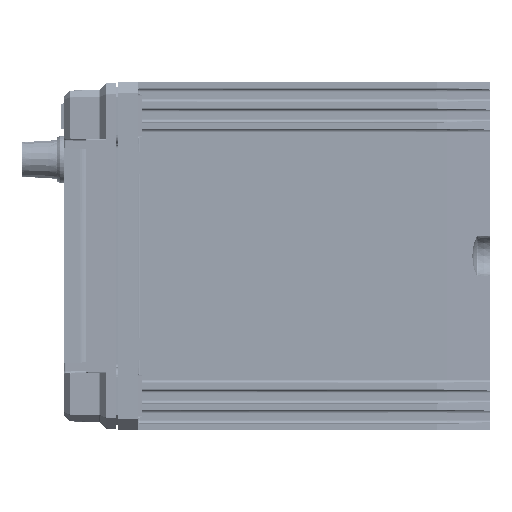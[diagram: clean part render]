
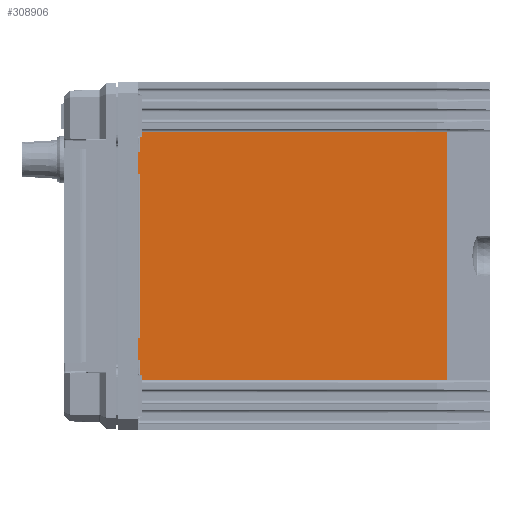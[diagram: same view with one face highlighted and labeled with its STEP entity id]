
A CAD part, left-side view. The second image highlights one B-rep face of the part: STEP entity #308906.
In plain terms, the highlighted planar face has unit normal (-1, 0, 0).
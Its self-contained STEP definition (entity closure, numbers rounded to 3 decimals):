
#51930 = CARTESIAN_POINT ( 'NONE',  ( -190.25, -18.37, 61.275 ) ) ;
#51933 = CARTESIAN_POINT ( 'NONE',  ( -190.25, -169.087, 61.275 ) ) ;
#51936 = CARTESIAN_POINT ( 'NONE',  ( -190.25, -18.37, 58.761 ) ) ;
#51939 = CARTESIAN_POINT ( 'NONE',  ( -190.25, -17.05, 58.689 ) ) ;
#51942 = CARTESIAN_POINT ( 'NONE',  ( -190.25, -17.05, 51.7 ) ) ;
#51945 = CARTESIAN_POINT ( 'NONE',  ( -190.25, -16.4, 51.7 ) ) ;
#51948 = CARTESIAN_POINT ( 'NONE',  ( -190.25, -16.4, 40.7 ) ) ;
#51950 = CARTESIAN_POINT ( 'NONE',  ( -190.25, -17.05, 40.7 ) ) ;
#51953 = CARTESIAN_POINT ( 'NONE',  ( -190.25, -17.05, -40.7 ) ) ;
#51956 = CARTESIAN_POINT ( 'NONE',  ( -190.25, -16.4, -40.7 ) ) ;
#51959 = CARTESIAN_POINT ( 'NONE',  ( -190.25, -16.4, -51.7 ) ) ;
#51962 = CARTESIAN_POINT ( 'NONE',  ( -190.25, -17.05, -51.7 ) ) ;
#51965 = CARTESIAN_POINT ( 'NONE',  ( -190.25, -17.05, -58.689 ) ) ;
#51968 = CARTESIAN_POINT ( 'NONE',  ( -190.25, -18.37, -58.761 ) ) ;
#51971 = CARTESIAN_POINT ( 'NONE',  ( -190.25, -18.37, -61.275 ) ) ;
#51974 = CARTESIAN_POINT ( 'NONE',  ( -190.25, -169.087, -61.275 ) ) ;
#62734 = FACE_OUTER_BOUND ( 'NONE', #70448, .T. ) ;
#62784 = AXIS2_PLACEMENT_3D ( 'NONE', #107910, #107913, #107916 ) ;
#66114 = VECTOR ( 'NONE', #131334, 1000. ) ;
#66119 = VECTOR ( 'NONE', #131344, 1000. ) ;
#66127 = VECTOR ( 'NONE', #131371, 1000. ) ;
#66132 = VECTOR ( 'NONE', #131382, 1000. ) ;
#66137 = VECTOR ( 'NONE', #131393, 1000. ) ;
#66143 = VECTOR ( 'NONE', #131403, 1000. ) ;
#66148 = VECTOR ( 'NONE', #131414, 1000. ) ;
#66153 = VECTOR ( 'NONE', #131425, 1000. ) ;
#66159 = VECTOR ( 'NONE', #131436, 1000. ) ;
#66164 = VECTOR ( 'NONE', #131446, 1000. ) ;
#66169 = VECTOR ( 'NONE', #131457, 1000. ) ;
#66177 = VECTOR ( 'NONE', #131485, 1000. ) ;
#66182 = VECTOR ( 'NONE', #131495, 1000. ) ;
#66187 = VECTOR ( 'NONE', #131506, 1000. ) ;
#70448 = EDGE_LOOP ( 'NONE', ( #322698, #322702, #322700, #322704, #322706, #322708, #322710, #322712, #322714, #322716, #322718, #322720, #322722, #322724, #322726, #322728 ) ) ;
#107908 = PLANE ( 'NONE',  #62784 ) ;
#107910 = CARTESIAN_POINT ( 'NONE',  ( -190.25, -9.2, 86. ) ) ;
#107913 = DIRECTION ( 'NONE',  ( 1., 0., 0. ) ) ;
#107916 = DIRECTION ( 'NONE',  ( 0., -1., 0. ) ) ;
#118816 =( BOUNDED_CURVE ( )  B_SPLINE_CURVE ( 3, ( #131461, #131464, #131468, #131471 ),
 .UNSPECIFIED., .F., .F. ) 
 B_SPLINE_CURVE_WITH_KNOTS ( ( 4, 4 ),
 ( 3.56, 3.597 ),
 .UNSPECIFIED. ) 
 CURVE ( )  GEOMETRIC_REPRESENTATION_ITEM ( )  RATIONAL_B_SPLINE_CURVE ( ( 1., 1., 1., 1. ) ) 
 REPRESENTATION_ITEM ( '' )  );
#118818 =( BOUNDED_CURVE ( )  B_SPLINE_CURVE ( 3, ( #131348, #131352, #131355, #131359 ),
 .UNSPECIFIED., .F., .F. ) 
 B_SPLINE_CURVE_WITH_KNOTS ( ( 4, 4 ),
 ( 5.828, 5.865 ),
 .UNSPECIFIED. ) 
 CURVE ( )  GEOMETRIC_REPRESENTATION_ITEM ( )  RATIONAL_B_SPLINE_CURVE ( ( 1., 1., 1., 1. ) ) 
 REPRESENTATION_ITEM ( '' )  );
#131326 = LINE ( 'NONE', #131330, #66114 ) ;
#131330 = CARTESIAN_POINT ( 'NONE',  ( -190.25, -18.37, 86. ) ) ;
#131334 = DIRECTION ( 'NONE',  ( 0., 0., -1. ) ) ;
#131337 = LINE ( 'NONE', #131341, #66119 ) ;
#131341 = CARTESIAN_POINT ( 'NONE',  ( -190.25, -9.2, 61.275 ) ) ;
#131344 = DIRECTION ( 'NONE',  ( 0., -1., 0. ) ) ;
#131348 = CARTESIAN_POINT ( 'NONE',  ( -190.25, -17.05, 58.689 ) ) ;
#131352 = CARTESIAN_POINT ( 'NONE',  ( -190.25, -17.507, 58.713 ) ) ;
#131355 = CARTESIAN_POINT ( 'NONE',  ( -190.25, -17.947, 58.737 ) ) ;
#131359 = CARTESIAN_POINT ( 'NONE',  ( -190.25, -18.37, 58.761 ) ) ;
#131364 = LINE ( 'NONE', #131367, #66127 ) ;
#131367 = CARTESIAN_POINT ( 'NONE',  ( -190.25, -17.05, 58.655 ) ) ;
#131371 = DIRECTION ( 'NONE',  ( 0., 0., 1. ) ) ;
#131375 = LINE ( 'NONE', #131378, #66132 ) ;
#131378 = CARTESIAN_POINT ( 'NONE',  ( -190.25, -16.4, 51.7 ) ) ;
#131382 = DIRECTION ( 'NONE',  ( 0., -1., 0. ) ) ;
#131385 = LINE ( 'NONE', #131389, #66137 ) ;
#131389 = CARTESIAN_POINT ( 'NONE',  ( -190.25, -16.4, 86. ) ) ;
#131393 = DIRECTION ( 'NONE',  ( 0., 0., -1. ) ) ;
#131396 = LINE ( 'NONE', #131400, #66143 ) ;
#131400 = CARTESIAN_POINT ( 'NONE',  ( -190.25, -16.4, 40.7 ) ) ;
#131403 = DIRECTION ( 'NONE',  ( 0., 1., 0. ) ) ;
#131407 = LINE ( 'NONE', #131410, #66148 ) ;
#131410 = CARTESIAN_POINT ( 'NONE',  ( -190.25, -17.05, 40.7 ) ) ;
#131414 = DIRECTION ( 'NONE',  ( 0., 0., 1. ) ) ;
#131418 = LINE ( 'NONE', #131421, #66153 ) ;
#131421 = CARTESIAN_POINT ( 'NONE',  ( -190.25, -16.4, -40.7 ) ) ;
#131425 = DIRECTION ( 'NONE',  ( 0., -1., 0. ) ) ;
#131428 = LINE ( 'NONE', #131432, #66159 ) ;
#131432 = CARTESIAN_POINT ( 'NONE',  ( -190.25, -16.4, 86. ) ) ;
#131436 = DIRECTION ( 'NONE',  ( 0., 0., -1. ) ) ;
#131439 = LINE ( 'NONE', #131443, #66164 ) ;
#131443 = CARTESIAN_POINT ( 'NONE',  ( -190.25, -16.4, -51.7 ) ) ;
#131446 = DIRECTION ( 'NONE',  ( 0., 1., 0. ) ) ;
#131450 = LINE ( 'NONE', #131453, #66169 ) ;
#131453 = CARTESIAN_POINT ( 'NONE',  ( -190.25, -17.05, -51.7 ) ) ;
#131457 = DIRECTION ( 'NONE',  ( 0., 0., 1. ) ) ;
#131461 = CARTESIAN_POINT ( 'NONE',  ( -190.25, -18.37, -58.761 ) ) ;
#131464 = CARTESIAN_POINT ( 'NONE',  ( -190.25, -17.947, -58.737 ) ) ;
#131468 = CARTESIAN_POINT ( 'NONE',  ( -190.25, -17.507, -58.713 ) ) ;
#131471 = CARTESIAN_POINT ( 'NONE',  ( -190.25, -17.05, -58.689 ) ) ;
#131478 = LINE ( 'NONE', #131481, #66177 ) ;
#131481 = CARTESIAN_POINT ( 'NONE',  ( -190.25, -18.37, 86. ) ) ;
#131485 = DIRECTION ( 'NONE',  ( 0., 0., -1. ) ) ;
#131488 = LINE ( 'NONE', #131492, #66182 ) ;
#131492 = CARTESIAN_POINT ( 'NONE',  ( -190.25, -9.2, -61.275 ) ) ;
#131495 = DIRECTION ( 'NONE',  ( 0., 1., 0. ) ) ;
#131499 = LINE ( 'NONE', #131503, #66187 ) ;
#131503 = CARTESIAN_POINT ( 'NONE',  ( -190.25, -169.087, 86. ) ) ;
#131506 = DIRECTION ( 'NONE',  ( 0., 0., -1. ) ) ;
#308906 = ADVANCED_FACE ( 'NONE', ( #62734 ), #107908, .F. ) ;
#322698 = ORIENTED_EDGE ( 'NONE', *, *, #323712, .F. ) ;
#322700 = ORIENTED_EDGE ( 'NONE', *, *, #323720, .F. ) ;
#322702 = ORIENTED_EDGE ( 'NONE', *, *, #323707, .T. ) ;
#322704 = ORIENTED_EDGE ( 'NONE', *, *, #323726, .F. ) ;
#322706 = ORIENTED_EDGE ( 'NONE', *, *, #323731, .F. ) ;
#322708 = ORIENTED_EDGE ( 'NONE', *, *, #323739, .T. ) ;
#322710 = ORIENTED_EDGE ( 'NONE', *, *, #323745, .F. ) ;
#322712 = ORIENTED_EDGE ( 'NONE', *, *, #323750, .F. ) ;
#322714 = ORIENTED_EDGE ( 'NONE', *, *, #323758, .F. ) ;
#322716 = ORIENTED_EDGE ( 'NONE', *, *, #323763, .T. ) ;
#322718 = ORIENTED_EDGE ( 'NONE', *, *, #323769, .F. ) ;
#322720 = ORIENTED_EDGE ( 'NONE', *, *, #323774, .F. ) ;
#322722 = ORIENTED_EDGE ( 'NONE', *, *, #323782, .F. ) ;
#322724 = ORIENTED_EDGE ( 'NONE', *, *, #323787, .T. ) ;
#322726 = ORIENTED_EDGE ( 'NONE', *, *, #323793, .F. ) ;
#322728 = ORIENTED_EDGE ( 'NONE', *, *, #323798, .F. ) ;
#323707 = EDGE_CURVE ( 'NONE', #442519, #442525, #131326, .T. ) ;
#323712 = EDGE_CURVE ( 'NONE', #442519, #442522, #131337, .T. ) ;
#323720 = EDGE_CURVE ( 'NONE', #442526, #442525, #118818, .T. ) ;
#323726 = EDGE_CURVE ( 'NONE', #442529, #442526, #131364, .T. ) ;
#323731 = EDGE_CURVE ( 'NONE', #442530, #442529, #131375, .T. ) ;
#323739 = EDGE_CURVE ( 'NONE', #442530, #442532, #131385, .T. ) ;
#323745 = EDGE_CURVE ( 'NONE', #442533, #442532, #131396, .T. ) ;
#323750 = EDGE_CURVE ( 'NONE', #442535, #442533, #131407, .T. ) ;
#323758 = EDGE_CURVE ( 'NONE', #442538, #442535, #131418, .T. ) ;
#323763 = EDGE_CURVE ( 'NONE', #442538, #442539, #131428, .T. ) ;
#323769 = EDGE_CURVE ( 'NONE', #442542, #442539, #131439, .T. ) ;
#323774 = EDGE_CURVE ( 'NONE', #442545, #442542, #131450, .T. ) ;
#323782 = EDGE_CURVE ( 'NONE', #442546, #442545, #118816, .T. ) ;
#323787 = EDGE_CURVE ( 'NONE', #442546, #442549, #131478, .T. ) ;
#323793 = EDGE_CURVE ( 'NONE', #442550, #442549, #131488, .T. ) ;
#323798 = EDGE_CURVE ( 'NONE', #442522, #442550, #131499, .T. ) ;
#442519 = VERTEX_POINT ( 'NONE', #51930 ) ;
#442522 = VERTEX_POINT ( 'NONE', #51933 ) ;
#442525 = VERTEX_POINT ( 'NONE', #51936 ) ;
#442526 = VERTEX_POINT ( 'NONE', #51939 ) ;
#442529 = VERTEX_POINT ( 'NONE', #51942 ) ;
#442530 = VERTEX_POINT ( 'NONE', #51945 ) ;
#442532 = VERTEX_POINT ( 'NONE', #51948 ) ;
#442533 = VERTEX_POINT ( 'NONE', #51950 ) ;
#442535 = VERTEX_POINT ( 'NONE', #51953 ) ;
#442538 = VERTEX_POINT ( 'NONE', #51956 ) ;
#442539 = VERTEX_POINT ( 'NONE', #51959 ) ;
#442542 = VERTEX_POINT ( 'NONE', #51962 ) ;
#442545 = VERTEX_POINT ( 'NONE', #51965 ) ;
#442546 = VERTEX_POINT ( 'NONE', #51968 ) ;
#442549 = VERTEX_POINT ( 'NONE', #51971 ) ;
#442550 = VERTEX_POINT ( 'NONE', #51974 ) ;
